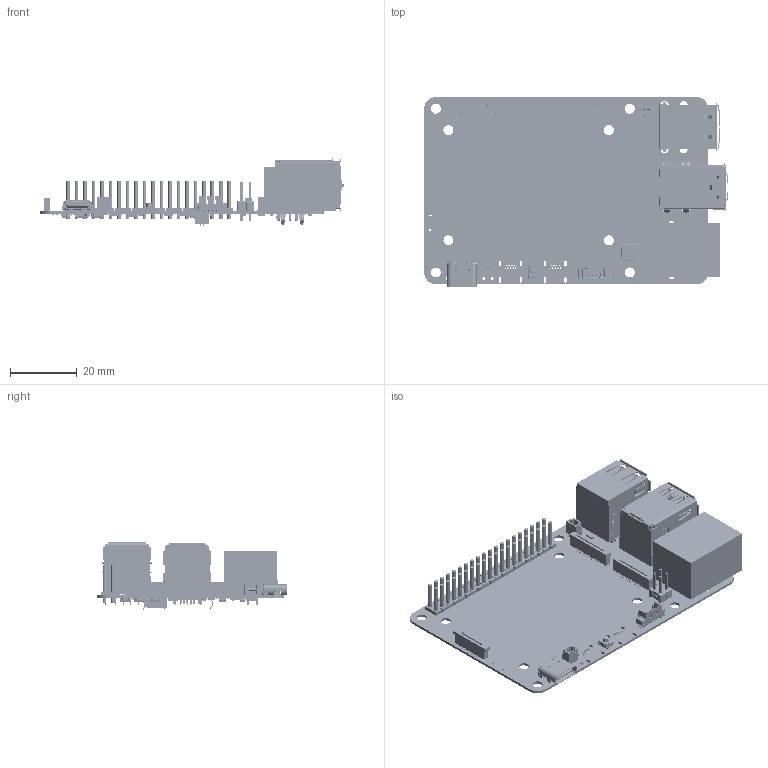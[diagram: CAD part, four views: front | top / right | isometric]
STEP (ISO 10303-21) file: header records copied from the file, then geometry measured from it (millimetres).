
FILE_DESCRIPTION(('Open CASCADE Model'),'2;1');
FILE_NAME('Open CASCADE Shape Model','2025-08-26T14:15:25',('Author'),( 'Open CASCADE'),'Open CASCADE STEP processor 6.5','Open CASCADE 6.5' ,'Unknown');
FILE_SCHEMA(('AUTOMOTIVE_DESIGN { 1 0 10303 214 1 1 1 1 }'));
Length unit declared in the file: millimetre
Products named in the file (292): PCB; Board; R7; R0402; R_0402-5222_AF0_ASM; R_0402-3099_AF0_ASM; _2_1_20001; 5_1_2_A; _7_AF0; R8; U25; User_Library-UDFN10; Body; Pin1; Pin2; Pin4; Pin3; C4; C_0402; C_0402-4045_AF0_ASM; C_0402-672_AF0_ASM; _1_10001; 3_1_A; 2_100; R6; R0603; R_0603-3615_AF0_ASM; R_0603-3601_AF0_ASM; _2_1_2_3_4_AF0; _7_1_2_AF0; 5_1_2_3_400; R5; R4; R14; R13; J4; fpc-20px0_5mm-Connector; J6; J3; 3D_Model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
Assembly tree (495 placements, depth 7):
  PCB
    Board
    R7
      R0402
        R_0402-5222_AF0_ASM
          R_0402-3099_AF0_ASM
            _2_1_20001
            5_1_2_A
            _7_AF0
    R8
      R0402
        R_0402-5222_AF0_ASM
          R_0402-3099_AF0_ASM
            _2_1_20001
            5_1_2_A
            _7_AF0
    U25
      User_Library-UDFN10
        Body
        Pin1
        Pin2  x7
        Pin4
        Pin3
    C4
      C_0402
        C_0402-4045_AF0_ASM
          C_0402-672_AF0_ASM
            _1_10001
            3_1_A
            2_100
    R6
      R0603
        R_0603-3615_AF0_ASM
          R_0603-3601_AF0_ASM
            _2_1_2_3_4_AF0
            _7_1_2_AF0
            5_1_2_3_400
    R5
      R0603
        R_0603-3615_AF0_ASM
          R_0603-3601_AF0_ASM
            _2_1_2_3_4_AF0
            _7_1_2_AF0
            5_1_2_3_400
    R4
      R0603
        R_0603-3615_AF0_ASM
          R_0603-3601_AF0_ASM
            _2_1_2_3_4_AF0
            _7_1_2_AF0
            5_1_2_3_400
    R14
      R0402
        R_0402-5222_AF0_ASM
          R_0402-3099_AF0_ASM
            _2_1_20001
            5_1_2_A
            _7_AF0
    R13
      R0402
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Bounding box: 90.87 x 56.85 x 20.44 mm (x, y, z)
Volume: 12842.2 mm3; surface area: 31648.1 mm2
Topology: 708 solids, 720 shells, 58627 faces, 154902 edges, 101643 vertices
Faces by surface type: plane 42243, extrusion 10836, cylinder 3915, bspline 679, sphere 668, torus 244, cone 42
Full cylindrical faces by diameter (mm): 0.432 x18, 0.7 x18, 0.762 x2, 0.889 x44, 0.9 x2, 1 x22, 1.05 x4, 1.7 x2, 2.3 x4, 2.4 x4, 3 x8, 3.3 x2
Entity records: 885517 total; most frequent: CARTESIAN_POINT 307367, DIRECTION 90465, VECTOR 63441, LINE 62194, ORIENTED_EDGE 58358, PCURVE 58358, DEFINITIONAL_REPRESENTATION 58358, EDGE_CURVE 29179
